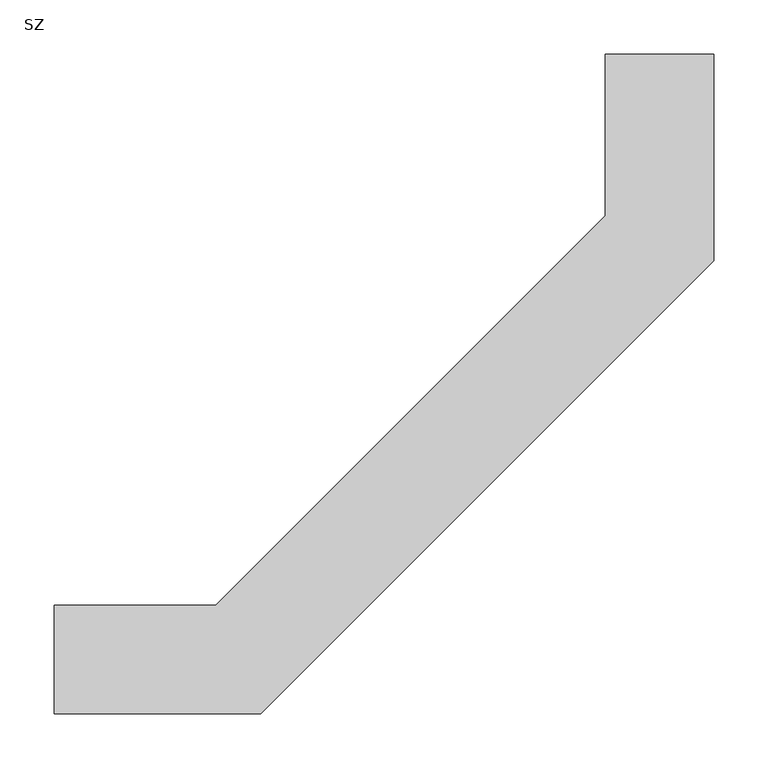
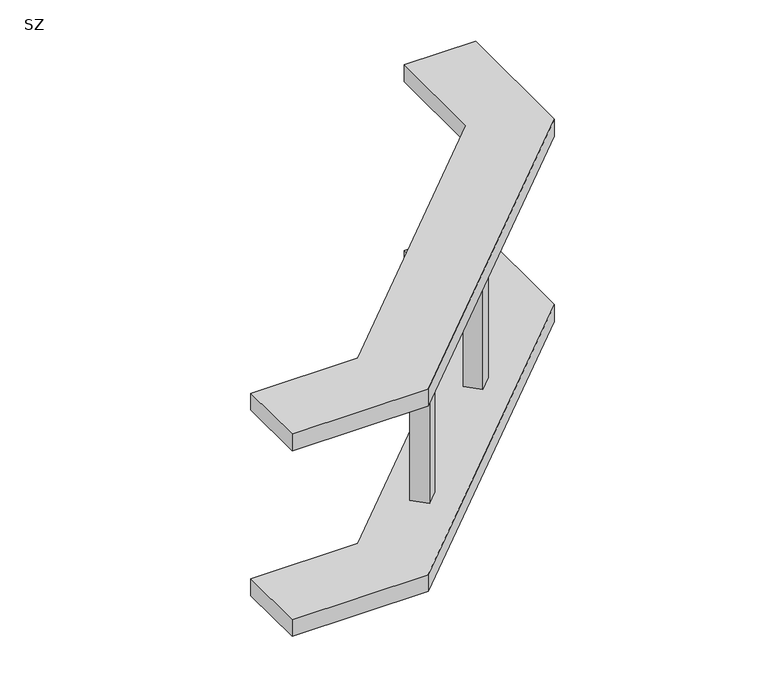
"""IFC4 building model written with IfcOpenShell, lengths in millimetres: cable carrier fitting geometry, IEK_Лестничный_Поворот шарнирный вертик : SZ."""

from ifc_helpers import new_model, si_unit, frame, origin, place, context, project, spatial, polyline, outline, extrude, source, transform, mapped, element, save


def sz_2abae99f(model_context):
    return source(origin(), model_context, "Body", "SweptSolid", [
        extrude(outline(polyline([(-114.9048519, 256.3262082), (-132.2048964, 273.6262526), (-114.5272269, 291.3039222), (-97.2271824, 274.0038777), (-114.9048519, 256.3262082)])), frame((0.0, 0.0, -125.0), z_axis=(0.0, 0.0, 1.0), x_axis=(1.0, 0.0, 0.0)), (0.0, 0.0, 1.0), 250.0),
        extrude(outline(polyline([(-291.6815472, 79.5495129), (-309.3592168, 97.2271824), (-291.6815472, 114.9048519), (-274.0038777, 97.2271824), (-291.6815472, 79.5495129)])), frame((0.0, 0.0, -125.0), z_axis=(0.0, 0.0, 1.0), x_axis=(1.0, 0.0, 0.0)), (0.0, 0.0, 1.0), 250.0),
        extrude(outline(polyline([(-558.9087297, -50.0), (-558.9087297, 50.0), (-409.6194078, 50.0), (-50.0, 409.6194078), (-50.0, 558.9087297), (50.0, 558.9087297), (50.0, 368.1980515), (-368.1980515, -50.0), (-558.9087297, -50.0)])), frame((0.0, 0.0, -150.0), z_axis=(0.0, 0.0, 1.0), x_axis=(1.0, 0.0, 0.0)), (0.0, 0.0, 1.0), 25.0),
        extrude(outline(polyline([(-558.9087297, -50.0), (-558.9087297, 50.0), (-409.6194078, 50.0), (-50.0, 409.6194078), (-50.0, 558.9087297), (50.0, 558.9087297), (50.0, 368.1980515), (-368.1980515, -50.0), (-558.9087297, -50.0)])), frame((0.0, 0.0, 125.0), z_axis=(0.0, 0.0, 1.0), x_axis=(1.0, 0.0, 0.0)), (0.0, 0.0, 1.0), 25.0),
    ])


if __name__ == "__main__":
    model = new_model("IFC4")
    model_context = context("Model", 3, world=origin())
    ifc_project = project(units=[si_unit("LENGTHUNIT", "METRE", prefix="MILLI")], contexts=[model_context])
    site = spatial("IfcSite", under=ifc_project)
    building = spatial("IfcBuilding", under=site)
    placement = place(None, origin())
    sz_shape = sz_2abae99f(model_context)
    element("IfcCableCarrierFitting", 1, ObjectType="IEK_Лестничный_Поворот шарнирный вертик : SZ", at=placement, inside=building, context=model_context, shape_type="MappedRepresentation", body=[
        mapped(sz_shape, transform((0.0, 0.0, 0.0), x_axis=(1.0, 0.0, 0.0), y_axis=(0.0, 1.0, 0.0), z_axis=(0.0, 0.0, 1.0))),
    ])
    save(model, "model.ifc")
